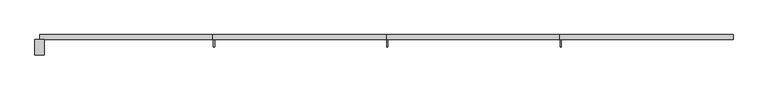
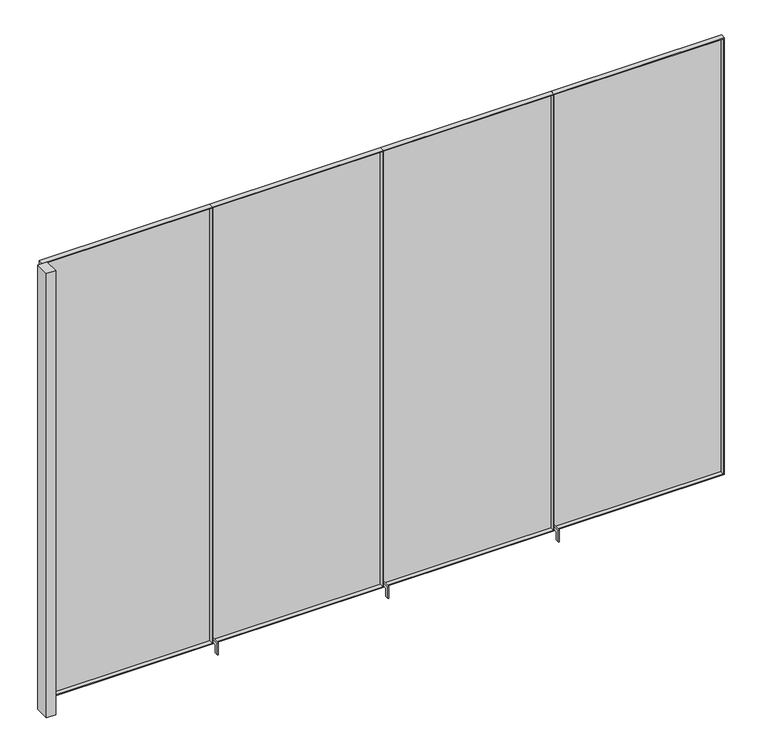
"""IFC4 building model written with IfcOpenShell, lengths in millimetres: furniture geometry, H104 Reja 4 módulos : H104 Reja 4 módulos 450x310."""

from ifc_helpers import new_model, si_unit, frame, origin, origin_with_axes, place, context, project, spatial, polyline, outline, extrude, source, transform, mapped, element, save


def furniture_a39bbeee(model_context):
    return source(origin(), model_context, "Body", "SweptSolid", [
        extrude(outline(polyline([(-2175.2996736, 468.0), (-2235.2996736, 468.0), (-2235.2996736, 568.0), (-2175.2996736, 568.0), (-2175.2996736, 468.0)])), origin_with_axes(), (0.0, 0.0, 1.0), 3100.0),
        extrude(outline(polyline([(3100.0, 44.7003264), (3100.0, -1080.2996736), (50.0, -1080.2996736), (50.0, 44.7003264), (3100.0, 44.7003264)]), holes=[polyline([(3093.0, 41.2003264), (57.0, 41.2003264), (57.0, -1076.7996736), (3093.0, -1076.7996736), (3093.0, 41.2003264)])]), frame((0.0, 568.0, 0.0), z_axis=(0.0, 1.0, 0.0), x_axis=(0.0, 0.0, 1.0)), (0.0, 0.0, 1.0), 32.0),
        extrude(outline(polyline([(2287.7003264, 600.0), (2287.7003264, 597.0), (1173.2003264, 597.0), (1173.2003264, 600.0), (2287.7003264, 600.0)])), frame((0.0, 0.0, 57.0), z_axis=(0.0, 0.0, 1.0), x_axis=(1.0, 0.0, 0.0)), (0.0, 0.0, 1.0), 3036.0),
        extrude(outline(polyline([(3100.0, 2294.7003264), (3100.0, 1169.7003264), (50.0, 1169.7003264), (50.0, 2294.7003264), (3100.0, 2294.7003264)]), holes=[polyline([(3093.0, 2287.7003264), (57.0, 2287.7003264), (57.0, 1173.2003264), (3093.0, 1173.2003264), (3093.0, 2287.7003264)])]), frame((0.0, 568.0, 0.0), z_axis=(0.0, 1.0, 0.0), x_axis=(0.0, 0.0, 1.0)), (0.0, 0.0, 1.0), 32.0),
        extrude(outline(polyline([(1166.2003264, 600.0), (1166.2003264, 597.0), (48.2003264, 597.0), (48.2003264, 600.0), (1166.2003264, 600.0)])), frame((0.0, 0.0, 57.0), z_axis=(0.0, 0.0, 1.0), x_axis=(1.0, 0.0, 0.0)), (0.0, 0.0, 1.0), 3036.0),
        extrude(outline(polyline([(3100.0, 1169.7003264), (3100.0, 44.7003264), (50.0, 44.7003264), (50.0, 1169.7003264), (3100.0, 1169.7003264)]), holes=[polyline([(3093.0, 1166.2003264), (57.0, 1166.2003264), (57.0, 48.2003264), (3093.0, 48.2003264), (3093.0, 1166.2003264)])]), frame((0.0, 568.0, 0.0), z_axis=(0.0, 1.0, 0.0), x_axis=(0.0, 0.0, 1.0)), (0.0, 0.0, 1.0), 32.0),
        extrude(outline(polyline([(41.2003264, 600.0), (41.2003264, 597.0), (-1076.7996736, 597.0), (-1076.7996736, 600.0), (41.2003264, 600.0)])), frame((0.0, 0.0, 57.0), z_axis=(0.0, 0.0, 1.0), x_axis=(1.0, 0.0, 0.0)), (0.0, 0.0, 1.0), 3036.0),
        extrude(outline(polyline([(-1083.7996736, 600.0), (-1083.7996736, 597.0), (-2198.2996736, 597.0), (-2198.2996736, 600.0), (-1083.7996736, 600.0)])), frame((0.0, 0.0, 57.0), z_axis=(0.0, 0.0, 1.0), x_axis=(1.0, 0.0, 0.0)), (0.0, 0.0, 1.0), 3036.0),
        extrude(outline(polyline([(3100.0, -1080.2996736), (3100.0, -2205.2996736), (50.0, -2205.2996736), (50.0, -1080.2996736), (3100.0, -1080.2996736)]), holes=[polyline([(3093.0, -1083.7996736), (57.0, -1083.7996736), (57.0, -2198.2996736), (3093.0, -2198.2996736), (3093.0, -1083.7996736)])]), frame((0.0, 568.0, 0.0), z_axis=(0.0, 1.0, 0.0), x_axis=(0.0, 0.0, 1.0)), (0.0, 0.0, 1.0), 32.0),
        extrude(outline(polyline([(522.0, 82.0), (597.0, 82.0), (597.0, 57.0), (547.0, 57.0), (547.0, 0.0), (522.0, 0.0), (522.0, 82.0)])), frame((1173.2003264, 0.0, 0.0), z_axis=(1.0, 0.0, 0.0), x_axis=(0.0, 1.0, 0.0)), (0.0, 0.0, 1.0), 7.0),
        extrude(outline(polyline([(522.0, 82.0), (597.0, 82.0), (597.0, 57.0), (547.0, 57.0), (547.0, 0.0), (522.0, 0.0), (522.0, 82.0)])), frame((-1076.7996736, 0.0, 0.0), z_axis=(1.0, 0.0, 0.0), x_axis=(0.0, 1.0, 0.0)), (0.0, 0.0, 1.0), 7.0),
        extrude(outline(polyline([(522.0, 82.0), (597.0, 82.0), (597.0, 57.0), (547.0, 57.0), (547.0, 0.0), (522.0, 0.0), (522.0, 82.0)])), frame((48.2003264, 0.0, 0.0), z_axis=(1.0, 0.0, 0.0), x_axis=(0.0, 1.0, 0.0)), (0.0, 0.0, 1.0), 7.0),
    ])


if __name__ == "__main__":
    model = new_model("IFC4")
    model_context = context("Model", 3, world=origin())
    ifc_project = project(units=[si_unit("LENGTHUNIT", "METRE", prefix="MILLI")], contexts=[model_context])
    site = spatial("IfcSite", under=ifc_project)
    building = spatial("IfcBuilding", under=site)
    placement = place(None, origin())
    furniture_shape = furniture_a39bbeee(model_context)
    element("IfcFurniture", 1, ObjectType="H104 Reja 4 módulos : H104 Reja 4 módulos 450x310", at=placement, inside=building, context=model_context, shape_type="MappedRepresentation", body=[
        mapped(furniture_shape, transform((0.0, 0.0, 0.0), x_axis=(1.0, 0.0, 0.0), y_axis=(0.0, 1.0, 0.0), z_axis=(0.0, 0.0, 1.0))),
    ])
    save(model, "model.ifc")
